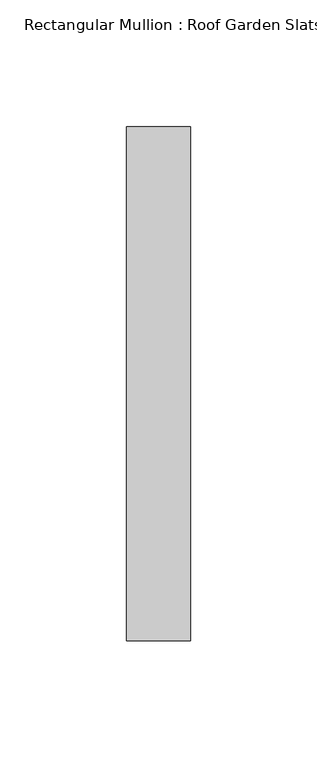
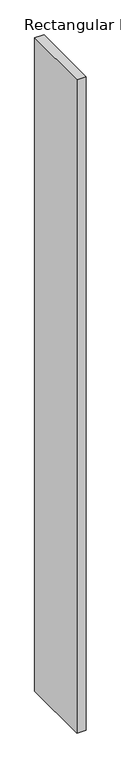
"""IFC4 building model written with IfcOpenShell, lengths in millimetres: member geometry, Rectangular Mullion : Roof Garden Slats."""

from ifc_helpers import new_model, si_unit, frame, origin, place, context, project, spatial, polyline, outline, extrude, source, transform, mapped, element, save


def rectangular_mullion_roof_garden_slats_6d5c326e(model_context):
    return source(origin(), model_context, "Body", "SweptSolid", [
        extrude(outline(polyline([(12.7, 139.7), (12.7, -63.5), (-12.7, -63.5), (-12.7, 139.7), (12.7, 139.7)])), frame((0.0, 0.0, -1923.1649248), z_axis=(0.0, 0.0, 1.0), x_axis=(1.0, 0.0, 0.0)), (0.0, 0.0, 1.0), 1923.1649248),
    ])


if __name__ == "__main__":
    model = new_model("IFC4")
    model_context = context("Model", 3, world=origin())
    ifc_project = project(units=[si_unit("LENGTHUNIT", "METRE", prefix="MILLI")], contexts=[model_context])
    site = spatial("IfcSite", under=ifc_project)
    building = spatial("IfcBuilding", under=site)
    placement = place(None, origin())
    rectangular_mullion_roof_garden_slats_shape = rectangular_mullion_roof_garden_slats_6d5c326e(model_context)
    element("IfcMember", 1, ObjectType="Rectangular Mullion : Roof Garden Slats", at=placement, inside=building, context=model_context, shape_type="MappedRepresentation", body=[
        mapped(rectangular_mullion_roof_garden_slats_shape, transform((0.0, 0.0, 0.0), x_axis=(1.0, 0.0, 0.0), y_axis=(0.0, 1.0, 0.0), z_axis=(0.0, 0.0, 1.0))),
    ])
    save(model, "model.ifc")
